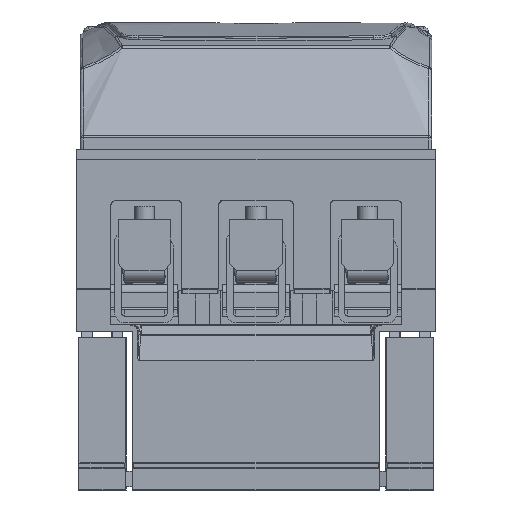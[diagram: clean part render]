
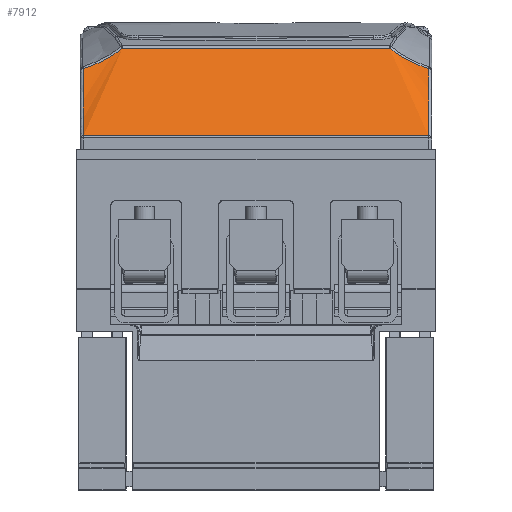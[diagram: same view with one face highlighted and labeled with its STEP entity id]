
A CAD part, left-side view. The second image highlights one B-rep face of the part: STEP entity #7912.
In plain terms, the highlighted face is a extrusion surface.
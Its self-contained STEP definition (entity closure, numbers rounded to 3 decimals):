
#2385=SURFACE_OF_LINEAR_EXTRUSION('',#3977,#38421);
#3977=ELLIPSE('',#41317,35.,12.5);
#5801=B_SPLINE_CURVE_WITH_KNOTS('',3,(#69251,#69252,#69253,#69254,#69255,
#69256),.UNSPECIFIED.,.F.,.F.,(4,2,4),(0.,0.5,1.),.UNSPECIFIED.);
#5802=B_SPLINE_CURVE_WITH_KNOTS('',3,(#69261,#69262,#69263,#69264,#69265,
#69266),.UNSPECIFIED.,.F.,.F.,(4,2,4),(0.,0.5,1.),.UNSPECIFIED.);
#5803=B_SPLINE_CURVE_WITH_KNOTS('',3,(#69268,#69269,#69270,#69271),
 .UNSPECIFIED.,.F.,.F.,(4,4),(0.,1.),.UNSPECIFIED.);
#5804=B_SPLINE_CURVE_WITH_KNOTS('',3,(#69275,#69276,#69277,#69278),
 .UNSPECIFIED.,.F.,.F.,(4,4),(0.,1.),.UNSPECIFIED.);
#7912=ADVANCED_FACE('',(#10621),#2385,.F.);
#10621=FACE_OUTER_BOUND('',#12654,.T.);
#12654=EDGE_LOOP('',(#16949,#16950,#16951,#16952,#16953,#16954));
#16949=ORIENTED_EDGE('',*,*,#31077,.T.);
#16950=ORIENTED_EDGE('',*,*,#31078,.T.);
#16951=ORIENTED_EDGE('',*,*,#31079,.T.);
#16952=ORIENTED_EDGE('',*,*,#31080,.T.);
#16953=ORIENTED_EDGE('',*,*,#31081,.T.);
#16954=ORIENTED_EDGE('',*,*,#31082,.T.);
#27048=VERTEX_POINT('',#69257);
#27049=VERTEX_POINT('',#69258);
#27050=VERTEX_POINT('',#69260);
#27051=VERTEX_POINT('',#69267);
#27052=VERTEX_POINT('',#69272);
#27053=VERTEX_POINT('',#69274);
#31077=EDGE_CURVE('',#27048,#27049,#5801,.T.);
#31078=EDGE_CURVE('',#27049,#27050,#35827,.T.);
#31079=EDGE_CURVE('',#27050,#27051,#5802,.T.);
#31080=EDGE_CURVE('',#27051,#27052,#5803,.T.);
#31081=EDGE_CURVE('',#27052,#27053,#35828,.T.);
#31082=EDGE_CURVE('',#27053,#27048,#5804,.T.);
#35827=LINE('',#69259,#38419);
#35828=LINE('',#69273,#38420);
#38419=VECTOR('',#45927,1.);
#38420=VECTOR('',#45928,1.);
#38421=VECTOR('',#45931,1.);
#41317=AXIS2_PLACEMENT_3D('',#69279,#45929,#45930);
#45927=DIRECTION('',(0.,1.,0.));
#45928=DIRECTION('',(0.,-1.,0.));
#45929=DIRECTION('',(0.,-1.,0.));
#45930=DIRECTION('',(0.568,0.,0.823));
#45931=DIRECTION('',(0.,-1.,0.));
#69251=CARTESIAN_POINT('',(-45.037,-51.,95.653));
#69252=CARTESIAN_POINT('',(-44.737,-48.893,96.326));
#69253=CARTESIAN_POINT('',(-44.378,-46.856,97.159));
#69254=CARTESIAN_POINT('',(-43.58,-42.956,99.166));
#69255=CARTESIAN_POINT('',(-43.149,-41.108,100.308));
#69256=CARTESIAN_POINT('',(-42.684,-39.476,101.757));
#69257=CARTESIAN_POINT('',(-45.037,-51.,95.653));
#69258=CARTESIAN_POINT('',(-42.684,-39.476,101.757));
#69259=CARTESIAN_POINT('',(-42.684,-39.476,101.757));
#69260=CARTESIAN_POINT('',(-42.684,39.476,101.757));
#69261=CARTESIAN_POINT('',(-42.684,39.476,101.757));
#69262=CARTESIAN_POINT('',(-43.151,41.115,100.302));
#69263=CARTESIAN_POINT('',(-43.588,42.995,99.144));
#69264=CARTESIAN_POINT('',(-44.38,46.869,97.155));
#69265=CARTESIAN_POINT('',(-44.737,48.892,96.327));
#69266=CARTESIAN_POINT('',(-45.037,51.,95.653));
#69267=CARTESIAN_POINT('',(-45.037,51.,95.653));
#69268=CARTESIAN_POINT('',(-45.037,51.,95.653));
#69269=CARTESIAN_POINT('',(-48.209,51.,88.527));
#69270=CARTESIAN_POINT('',(-52.405,51.,81.903));
#69271=CARTESIAN_POINT('',(-57.291,51.,75.823));
#69272=CARTESIAN_POINT('',(-57.291,51.,75.823));
#69273=CARTESIAN_POINT('',(-57.291,52.,75.823));
#69274=CARTESIAN_POINT('',(-57.291,-51.,75.823));
#69275=CARTESIAN_POINT('',(-57.291,-51.,75.823));
#69276=CARTESIAN_POINT('',(-52.406,-51.,81.901));
#69277=CARTESIAN_POINT('',(-48.208,-51.,88.529));
#69278=CARTESIAN_POINT('',(-45.037,-51.,95.653));
#69279=CARTESIAN_POINT('',(-63.388,52.,88.55));
